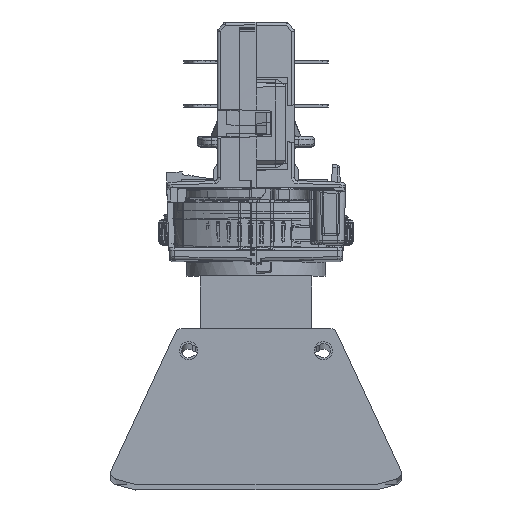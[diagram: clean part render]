
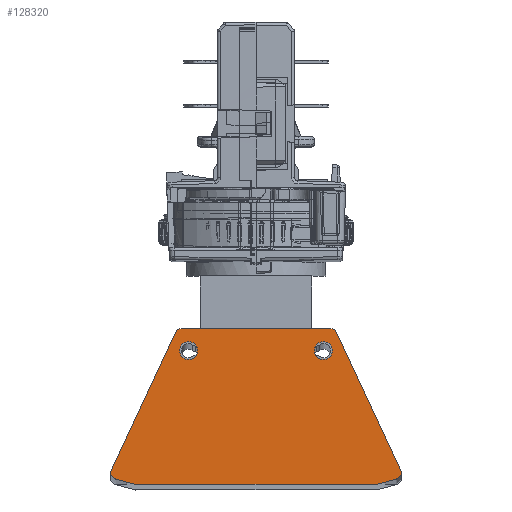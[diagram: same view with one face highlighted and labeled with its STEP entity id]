
A CAD part, top view. The second image highlights one B-rep face of the part: STEP entity #128320.
In plain terms, the highlighted planar face has unit normal (0, 0, 1).
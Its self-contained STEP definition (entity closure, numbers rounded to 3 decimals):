
#6218=FACE_BOUND('',#18093,.T.);
#6219=FACE_BOUND('',#18094,.T.);
#11039=FACE_OUTER_BOUND('',#18092,.T.);
#18092=EDGE_LOOP('',(#80748,#80749,#80750,#80751,#80752,#80753,#80754,#80755,
#80756,#80757,#80758,#80759,#80760,#80761));
#18093=EDGE_LOOP('',(#80762));
#18094=EDGE_LOOP('',(#80763));
#25242=CIRCLE('',#135471,1.6);
#25244=CIRCLE('',#135474,1.6);
#25246=CIRCLE('',#135477,0.35);
#25247=CIRCLE('',#135479,0.35);
#25248=CIRCLE('',#135484,0.35);
#25249=CIRCLE('',#135487,0.35);
#25250=CIRCLE('',#135490,1.1);
#25251=CIRCLE('',#135493,1.1);
#29214=LINE('',#200893,#38628);
#29216=LINE('',#200897,#38630);
#29218=LINE('',#200901,#38632);
#29221=LINE('',#200909,#38635);
#29224=LINE('',#200917,#38638);
#29227=LINE('',#200925,#38641);
#29229=LINE('',#200931,#38643);
#29230=LINE('',#200933,#38644);
#38628=VECTOR('',#147087,1000.);
#38630=VECTOR('',#147091,1000.);
#38632=VECTOR('',#147095,1000.);
#38635=VECTOR('',#147104,1000.);
#38638=VECTOR('',#147113,1000.);
#38641=VECTOR('',#147122,1000.);
#38643=VECTOR('',#147130,1000.);
#38644=VECTOR('',#147133,1000.);
#48197=VERTEX_POINT('',#200868);
#48199=VERTEX_POINT('',#200874);
#48200=VERTEX_POINT('',#200879);
#48201=VERTEX_POINT('',#200880);
#48202=VERTEX_POINT('',#200885);
#48203=VERTEX_POINT('',#200887);
#48204=VERTEX_POINT('',#200891);
#48205=VERTEX_POINT('',#200895);
#48206=VERTEX_POINT('',#200899);
#48207=VERTEX_POINT('',#200903);
#48208=VERTEX_POINT('',#200907);
#48209=VERTEX_POINT('',#200911);
#48210=VERTEX_POINT('',#200915);
#48211=VERTEX_POINT('',#200919);
#48212=VERTEX_POINT('',#200923);
#48213=VERTEX_POINT('',#200927);
#60713=EDGE_CURVE('',#48197,#48197,#25242,.T.);
#60716=EDGE_CURVE('',#48199,#48199,#25244,.T.);
#60718=EDGE_CURVE('',#48200,#48201,#25246,.T.);
#60722=EDGE_CURVE('',#48202,#48203,#25247,.T.);
#60725=EDGE_CURVE('',#48204,#48202,#29214,.T.);
#60727=EDGE_CURVE('',#48204,#48205,#29216,.T.);
#60729=EDGE_CURVE('',#48205,#48206,#29218,.T.);
#60731=EDGE_CURVE('',#48206,#48207,#25248,.T.);
#60733=EDGE_CURVE('',#48207,#48208,#29221,.T.);
#60735=EDGE_CURVE('',#48208,#48209,#25249,.T.);
#60737=EDGE_CURVE('',#48209,#48210,#29224,.T.);
#60739=EDGE_CURVE('',#48211,#48210,#25250,.T.);
#60741=EDGE_CURVE('',#48212,#48211,#29227,.T.);
#60743=EDGE_CURVE('',#48212,#48213,#25251,.T.);
#60744=EDGE_CURVE('',#48201,#48213,#29229,.T.);
#60745=EDGE_CURVE('',#48203,#48200,#29230,.T.);
#80748=ORIENTED_EDGE('',*,*,#60722,.F.);
#80749=ORIENTED_EDGE('',*,*,#60725,.F.);
#80750=ORIENTED_EDGE('',*,*,#60727,.T.);
#80751=ORIENTED_EDGE('',*,*,#60729,.T.);
#80752=ORIENTED_EDGE('',*,*,#60731,.T.);
#80753=ORIENTED_EDGE('',*,*,#60733,.T.);
#80754=ORIENTED_EDGE('',*,*,#60735,.T.);
#80755=ORIENTED_EDGE('',*,*,#60737,.T.);
#80756=ORIENTED_EDGE('',*,*,#60739,.F.);
#80757=ORIENTED_EDGE('',*,*,#60741,.F.);
#80758=ORIENTED_EDGE('',*,*,#60743,.T.);
#80759=ORIENTED_EDGE('',*,*,#60744,.F.);
#80760=ORIENTED_EDGE('',*,*,#60718,.F.);
#80761=ORIENTED_EDGE('',*,*,#60745,.F.);
#80762=ORIENTED_EDGE('',*,*,#60713,.F.);
#80763=ORIENTED_EDGE('',*,*,#60716,.F.);
#118469=PLANE('',#135496);
#128320=ADVANCED_FACE('',(#11039,#6218,#6219),#118469,.T.);
#135471=AXIS2_PLACEMENT_3D('',#200870,#147061,#147062);
#135474=AXIS2_PLACEMENT_3D('',#200876,#147068,#147069);
#135477=AXIS2_PLACEMENT_3D('',#200881,#147074,#147075);
#135479=AXIS2_PLACEMENT_3D('',#200888,#147081,#147082);
#135484=AXIS2_PLACEMENT_3D('',#200905,#147099,#147100);
#135487=AXIS2_PLACEMENT_3D('',#200913,#147108,#147109);
#135490=AXIS2_PLACEMENT_3D('',#200921,#147117,#147118);
#135493=AXIS2_PLACEMENT_3D('',#200929,#147126,#147127);
#135496=AXIS2_PLACEMENT_3D('',#200934,#147134,#147135);
#147061=DIRECTION('center_axis',(0.,0.,1.));
#147062=DIRECTION('ref_axis',(1.,0.,0.));
#147068=DIRECTION('center_axis',(0.,0.,1.));
#147069=DIRECTION('ref_axis',(1.,0.,0.));
#147074=DIRECTION('center_axis',(0.,0.,-1.));
#147075=DIRECTION('ref_axis',(1.,0.,0.));
#147081=DIRECTION('center_axis',(0.,0.,-1.));
#147082=DIRECTION('ref_axis',(1.,0.,0.));
#147087=DIRECTION('',(-0.966,0.259,0.));
#147091=DIRECTION('',(1.,0.,0.));
#147095=DIRECTION('',(0.966,0.259,0.));
#147099=DIRECTION('center_axis',(0.,0.,1.));
#147100=DIRECTION('ref_axis',(1.,0.,0.));
#147104=DIRECTION('',(0.707,0.707,0.));
#147108=DIRECTION('center_axis',(0.,0.,1.));
#147109=DIRECTION('ref_axis',(1.,0.,0.));
#147113=DIRECTION('',(-0.423,0.906,0.));
#147117=DIRECTION('center_axis',(0.,0.,-1.));
#147118=DIRECTION('ref_axis',(1.,0.,0.));
#147122=DIRECTION('',(1.,0.,0.));
#147126=DIRECTION('center_axis',(0.,0.,1.));
#147127=DIRECTION('ref_axis',(1.,0.,0.));
#147130=DIRECTION('',(0.423,0.906,0.));
#147133=DIRECTION('',(-0.707,0.707,0.));
#147134=DIRECTION('center_axis',(0.,0.,1.));
#147135=DIRECTION('ref_axis',(1.,0.,0.));
#200868=CARTESIAN_POINT('',(36.45,22.875,284.));
#200870=CARTESIAN_POINT('Origin',(38.05,22.875,284.));
#200874=CARTESIAN_POINT('',(12.35,22.875,284.));
#200876=CARTESIAN_POINT('Origin',(13.95,22.875,284.));
#200879=CARTESIAN_POINT('',(0.002,0.735,284.));
#200880=CARTESIAN_POINT('',(-0.067,1.131,284.));
#200881=CARTESIAN_POINT('Origin',(0.25,0.983,284.));
#200885=CARTESIAN_POINT('',(0.892,-0.088,284.));
#200887=CARTESIAN_POINT('',(0.735,0.003,284.));
#200888=CARTESIAN_POINT('Origin',(0.982,0.25,284.));
#200891=CARTESIAN_POINT('',(4.487,-1.051,284.));
#200893=CARTESIAN_POINT('',(23.726,-6.206,284.));
#200895=CARTESIAN_POINT('',(47.513,-1.051,284.));
#200897=CARTESIAN_POINT('',(26.,-1.051,284.));
#200899=CARTESIAN_POINT('',(51.108,-0.088,284.));
#200901=CARTESIAN_POINT('',(28.274,-6.206,284.));
#200903=CARTESIAN_POINT('',(51.264,0.003,284.));
#200905=CARTESIAN_POINT('Origin',(51.017,0.25,284.));
#200907=CARTESIAN_POINT('',(51.997,0.735,284.));
#200909=CARTESIAN_POINT('',(39.771,-11.491,284.));
#200911=CARTESIAN_POINT('',(52.067,1.131,284.));
#200913=CARTESIAN_POINT('Origin',(51.75,0.983,284.));
#200915=CARTESIAN_POINT('',(40.393,26.165,284.));
#200917=CARTESIAN_POINT('',(46.971,12.06,284.));
#200919=CARTESIAN_POINT('',(39.396,26.8,284.));
#200921=CARTESIAN_POINT('Origin',(39.396,25.7,284.));
#200923=CARTESIAN_POINT('',(12.603,26.8,284.));
#200925=CARTESIAN_POINT('',(26.,26.8,284.));
#200927=CARTESIAN_POINT('',(11.606,26.165,284.));
#200929=CARTESIAN_POINT('Origin',(12.603,25.7,284.));
#200931=CARTESIAN_POINT('',(5.029,12.06,284.));
#200933=CARTESIAN_POINT('',(12.228,-11.491,284.));
#200934=CARTESIAN_POINT('Origin',(26.,2.281,284.));
